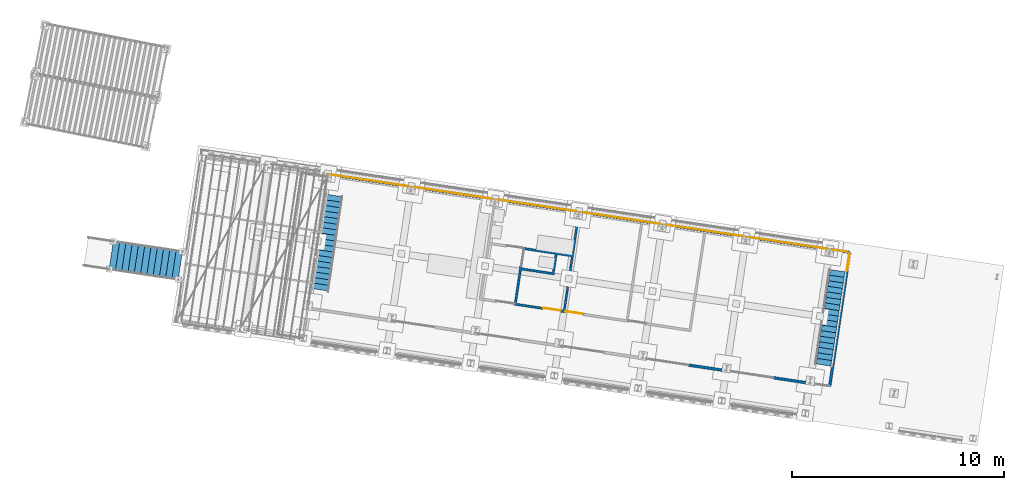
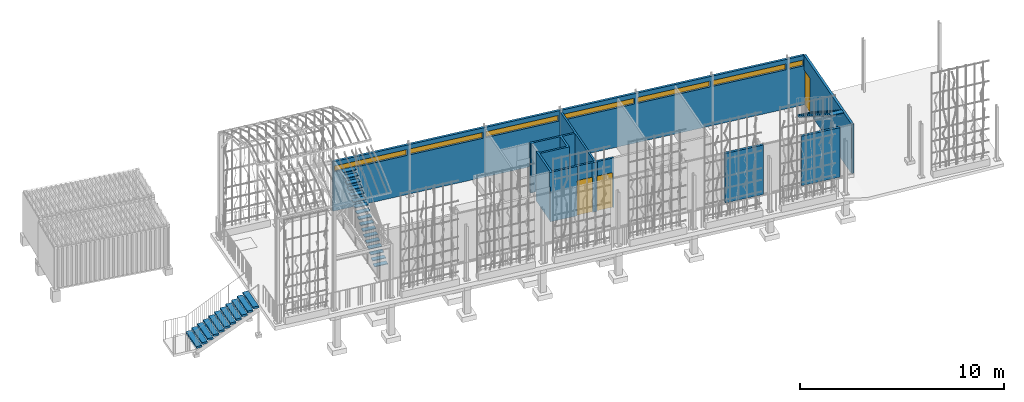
# One storey, part 135 of 142: 7 windows, 5 walls, 3 doors, 3 stair flights, 13 openings, 3 elements without a shape of their own.
"""IFC4 building model written with IfcOpenShell, lengths in metres."""

from ifc_helpers import new_model, si_unit, direction, frame, origin_with_axes, place, context, subcontext, project, spatial, polyline, outline, extrude, material, layer, layer_set, constituent, constituent_set, element, fill, aggregate, save


model = new_model("IFC4")

# Units and contexts
model_context = context("Model", 3, precision=1e-05, world=origin_with_axes(), true_north=direction((0.0, 1.0)))
body_context = subcontext(model_context, "Body", "Model", "MODEL_VIEW")
ifc_project = project(units=[si_unit("LENGTHUNIT", "METRE"), si_unit("AREAUNIT", "SQUARE_METRE"), si_unit("VOLUMEUNIT", "CUBIC_METRE")], contexts=[model_context])

# Site, building, storey
site_placement = place(None, origin_with_axes())
site = spatial("IfcSite", under=ifc_project, at=site_placement, Name="Lares · Rua das Mercês · artigo 4771")
building_placement = place(site_placement, frame((15.0, 9.7, 14.65), z_axis=(0.0, 0.0, 1.0), x_axis=(0.989015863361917, -0.147809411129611, 0.0)))
building = spatial("IfcBuilding", under=site, at=building_placement, Name="Casa Sobreposta")
storey_placement = place(building_placement, origin_with_axes())
storey = spatial("IfcBuildingStorey", under=building, at=storey_placement, Name="00 · Habitação e estacionamento", Elevation=14.65)

# Wall, openings, doors
ifc_material_1 = material(Name="OSB", Category="wood")
ifc_constituent_1 = constituent(ifc_material_1, Name="osb")
ifc_material_2 = material(Name="Lã mineral / Mineralwolle 2", Category="mineral wool")
ifc_constituent_2 = constituent(ifc_material_2, Name="wool")
ifc_constituent_set = constituent_set(constituents=[ifc_constituent_1, ifc_constituent_2], Name="OSB22 / lã mineral / OSB22")
wall_1_placement = place(storey_placement, origin_with_axes())
wall_1 = element("IfcWall", 1, at=wall_1_placement, inside=storey, material=ifc_constituent_set, Name="Divisória 2 · OSB 22 mm nas duas faces", context=body_context, shape_type="SweptSolid", body=[
    extrude(outline(polyline([(9.72999999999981, 3.383), (11.1799999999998, 3.383), (11.1799999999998, 4.24299999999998), (9.72999999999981, 4.24299999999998), (9.72999999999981, 4.19299999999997), (9.61999999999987, 4.19299999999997), (9.61999999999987, 4.24299999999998), (9.56999999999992, 4.24299999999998), (9.56999999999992, 4.35299999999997), (11.96, 4.35299999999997), (11.96, 6.27299999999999), (12.06, 6.27299999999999), (12.06, 1.70993390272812), (12.9746138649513, 1.7100856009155), (12.974632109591, 1.60008560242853), (12.1099999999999, 1.59994219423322), (12.1099999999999, 1.57999999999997), (11.8099999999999, 1.57999999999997), (11.8099999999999, 1.59995696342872), (11.05, 1.60006879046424), (11.05, 1.57999999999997), (9.56999999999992, 1.57999999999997), (9.56999999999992, 1.68999999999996), (9.61999999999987, 1.68999999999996), (9.61999999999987, 3.53299999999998), (9.72999999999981, 3.53299999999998), (9.72999999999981, 3.383)]), holes=[polyline([(9.64199999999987, 3.51099999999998), (9.64199999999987, 1.66799999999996), (9.59199999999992, 1.66799999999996), (9.59199999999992, 1.60199999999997), (11.028, 1.60199999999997), (11.028, 1.62207202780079), (11.8319999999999, 1.62195372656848), (11.8319999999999, 1.60199999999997), (12.0879999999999, 1.60199999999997), (12.0879999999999, 1.62193854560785), (12.9526284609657, 1.62208195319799), (12.9526175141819, 1.68808195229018), (12.038, 1.68793025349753), (12.038, 6.25099999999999), (11.982, 6.25099999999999), (11.982, 4.33099999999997), (9.59199999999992, 4.33099999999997), (9.59199999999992, 4.26499999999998), (9.64199999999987, 4.26499999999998), (9.64199999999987, 4.21499999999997), (9.70799999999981, 4.21499999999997), (9.70799999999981, 4.26499999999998), (11.2019999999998, 4.26499999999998), (11.2019999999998, 3.361), (9.70799999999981, 3.361), (9.70799999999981, 3.51099999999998), (9.64199999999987, 3.51099999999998)])]), origin_with_axes(), (0.0, 0.0, 1.0), 2.968),
    extrude(outline(polyline([(10.9666589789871, 1.66799999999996), (9.70799999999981, 1.66799999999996), (9.70799999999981, 3.29500000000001), (11.268, 3.29500000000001), (11.268, 4.26499999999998), (11.982, 4.26499999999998), (11.982, 1.66799999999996), (11.892736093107, 1.66799999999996), (11.8927390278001, 1.68794479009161), (10.9666619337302, 1.68808105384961), (10.9666589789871, 1.66799999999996)]), holes=[polyline([(11.96, 4.24299999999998), (11.29, 4.24299999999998), (11.29, 3.27300000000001), (9.72999999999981, 3.27300000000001), (9.72999999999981, 1.68999999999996), (10.9446622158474, 1.68999999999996), (10.9446651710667, 1.71008429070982), (11.9147422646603, 1.70994155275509), (11.9147393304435, 1.68999999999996), (11.96, 1.68999999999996), (11.96, 4.24299999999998)])]), origin_with_axes(), (0.0, 0.0, 1.0), 2.968),
    extrude(outline(polyline([(9.70799999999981, 3.51099999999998), (9.70799999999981, 3.361), (11.2019999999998, 3.361), (11.2019999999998, 4.26499999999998), (9.70799999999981, 4.26499999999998), (9.70799999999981, 4.21499999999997), (9.64199999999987, 4.21499999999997), (9.64199999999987, 4.26499999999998), (9.59199999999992, 4.26499999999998), (9.59199999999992, 4.33099999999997), (11.982, 4.33099999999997), (11.982, 6.25099999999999), (12.038, 6.25099999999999), (12.038, 1.68793025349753), (12.9526175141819, 1.68808195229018), (12.9526284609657, 1.62208195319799), (12.0879999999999, 1.62193854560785), (12.0879999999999, 1.60199999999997), (11.8319999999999, 1.60199999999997), (11.8319999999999, 1.62195372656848), (11.028, 1.62207202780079), (11.028, 1.60199999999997), (9.59199999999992, 1.60199999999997), (9.59199999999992, 1.66799999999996), (9.64199999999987, 1.66799999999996), (9.64199999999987, 3.51099999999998), (9.70799999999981, 3.51099999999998)]), holes=[polyline([(10.9666619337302, 1.68808105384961), (11.8927390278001, 1.68794479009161), (11.892736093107, 1.66799999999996), (11.982, 1.66799999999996), (11.982, 4.26499999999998), (11.268, 4.26499999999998), (11.268, 3.29500000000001), (9.70799999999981, 3.29500000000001), (9.70799999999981, 1.66799999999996), (10.9666589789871, 1.66799999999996), (10.9666619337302, 1.68808105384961)])]), origin_with_axes(), (0.0, 0.0, 1.0), 2.968),
])
opening_1_placement = place(wall_1_placement, origin_with_axes())
opening_1 = element("IfcOpeningElement", 2, at=opening_1_placement, cuts=wall_1, PredefinedType="OPENING", context=body_context, shape_type="SweptSolid", body=[
    extrude(outline(polyline([(12.9045964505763, 1.81507398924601), (12.9046495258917, 1.49507399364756), (12.0745568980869, 1.49493631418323), (12.0745038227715, 1.81493630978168), (12.9045964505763, 1.81507398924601)])), origin_with_axes(), (0.0, 0.0, 1.0), 2.1),
])
opening_2_placement = place(wall_1_placement, origin_with_axes())
element("IfcOpeningElement", 3, at=opening_2_placement, cuts=wall_1, PredefinedType="OPENING", context=body_context, shape_type="SweptSolid", body=[
    extrude(outline(polyline([(8.87451187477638, 4.15754451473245), (8.87455853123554, 4.47754451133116), (9.60464431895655, 4.4774380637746), (9.60459766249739, 4.15743806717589), (8.87451187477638, 4.15754451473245)])), origin_with_axes(), (0.0, 0.0, 1.0), 2.1),
])
opening_3_placement = place(wall_1_placement, origin_with_axes())
element("IfcOpeningElement", 4, at=opening_3_placement, cuts=wall_1, PredefinedType="OPENING", context=body_context, shape_type="SweptSolid", body=[
    extrude(outline(polyline([(8.77453708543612, 1.49507399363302), (8.77458998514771, 1.81507398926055), (9.60468215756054, 1.81493676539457), (9.60462925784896, 1.49493676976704), (8.77453708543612, 1.49507399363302)])), origin_with_axes(), (0.0, 0.0, 1.0), 2.1),
])
opening_4_placement = place(wall_1_placement, origin_with_axes())
opening_4 = element("IfcOpeningElement", 5, at=opening_4_placement, cuts=wall_1, Name="Vão porta interior 5.1", PredefinedType="OPENING", context=body_context, shape_type="SweptSolid", body=[
    extrude(outline(polyline([(11.0146335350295, 1.49507399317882), (11.0146806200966, 1.81507398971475), (11.8447577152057, 1.81495185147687), (11.8447106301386, 1.49495185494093), (11.0146335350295, 1.49507399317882)])), origin_with_axes(), (0.0, 0.0, 1.0), 2.1),
])
opening_5_placement = place(wall_1_placement, origin_with_axes())
element("IfcOpeningElement", 6, at=opening_5_placement, cuts=wall_1, PredefinedType="OPENING", context=body_context, shape_type="SweptSolid", body=[
    extrude(outline(polyline([(9.85466693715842, 3.49756304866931), (9.53466694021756, 3.49751880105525), (9.5345659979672, 4.22753601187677), (9.85456599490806, 4.22758025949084), (9.85466693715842, 3.49756304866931)])), origin_with_axes(), (0.0, 0.0, 1.0), 2.1),
])
door_1_placement = place(storey_placement, origin_with_axes())
door_1 = element("IfcDoor", 7, at=door_1_placement, inside=storey, material=ifc_material_1, Name="Porta interior 2", OperationType="SINGLE_SWING_LEFT", OverallHeight=2.1, OverallWidth=0.830092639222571, PredefinedType="DOOR", context=body_context, shape_type="SweptSolid", body=[
    extrude(outline(polyline([(12.9046200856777, 1.67257399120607), (12.9046258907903, 1.63757399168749), (12.0745332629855, 1.63743631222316), (12.0745274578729, 1.67243631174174), (12.9046200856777, 1.67257399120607)])), origin_with_axes(), (0.0, 0.0, 1.0), 2.1),
])
fill(opening_1, door_1)
door_2_placement = place(storey_placement, origin_with_axes())
door_2 = element("IfcDoor", 8, at=door_2_placement, inside=storey, material=ifc_material_1, Name="Porta interior 5", OperationType="SINGLE_SWING_LEFT", OverallHeight=2.1, OverallWidth=0.830077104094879, PredefinedType="DOOR", context=body_context, shape_type="SweptSolid", body=[
    extrude(outline(polyline([(11.0146545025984, 1.63757399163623), (11.0146596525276, 1.67257399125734), (11.8447367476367, 1.67245185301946), (11.8447315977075, 1.63745185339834), (11.0146545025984, 1.63757399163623)])), origin_with_axes(), (0.0, 0.0, 1.0), 2.1),
])
fill(opening_4, door_2)

# Wall, openings, windows
ifc_material_3 = material(Name="Aço pintado / Stahl lackiert", Category="steel")
ifc_layer_1 = layer(ifc_material_3, 0.005, Name="steel")
ifc_layer_2 = layer(ifc_material_2, 0.12, Name="wool")
ifc_layer_3 = layer(ifc_material_3, 0.00516, Name="steel")
ifc_layer_set_1 = layer_set([ifc_layer_1, ifc_layer_2, ifc_layer_3], Name="Casa DFL sandwich · 130.16 mm")
wall_2_placement = place(storey_placement, origin_with_axes())
wall_2 = element("IfcWall", 9, at=wall_2_placement, inside=storey, material=ifc_layer_set_1, Name="Fachada norte · sandwich Casa DFL", context=body_context, shape_type="SweptSolid", body=[
    extrude(outline(polyline([(24.92, 6.46508), (24.92, 6.33492), (0.0, 6.33492), (0.0, 6.46508), (24.92, 6.46508)])), origin_with_axes(), (0.0, 0.0, 1.0), 2.968),
])
opening_6_placement = place(wall_2_placement, frame((0.0, 0.0, 2.35), z_axis=(0.0, 0.0, 1.0), x_axis=(1.0, 0.0, 0.0)))
opening_6 = element("IfcOpeningElement", 10, at=opening_6_placement, cuts=wall_2, Name="Vão rasgo norte 1", PredefinedType="OPENING", context=body_context, shape_type="SweptSolid", body=[
    extrude(outline(polyline([(3.92, 6.6), (3.92, 6.2), (0.08, 6.2), (0.08, 6.6), (3.92, 6.6)])), origin_with_axes(), (0.0, 0.0, 1.0), 0.35),
])
opening_7_placement = place(wall_2_placement, frame((0.0, 0.0, 2.35), z_axis=(0.0, 0.0, 1.0), x_axis=(1.0, 0.0, 0.0)))
opening_7 = element("IfcOpeningElement", 11, at=opening_7_placement, cuts=wall_2, Name="Vão rasgo norte 2", PredefinedType="OPENING", context=body_context, shape_type="SweptSolid", body=[
    extrude(outline(polyline([(7.92, 6.6), (7.92, 6.2), (4.08, 6.2), (4.08, 6.6), (7.92, 6.6)])), origin_with_axes(), (0.0, 0.0, 1.0), 0.35),
])
opening_8_placement = place(wall_2_placement, frame((0.0, 0.0, 2.35), z_axis=(0.0, 0.0, 1.0), x_axis=(1.0, 0.0, 0.0)))
opening_8 = element("IfcOpeningElement", 12, at=opening_8_placement, cuts=wall_2, Name="Vão rasgo norte 3", PredefinedType="OPENING", context=body_context, shape_type="SweptSolid", body=[
    extrude(outline(polyline([(11.92, 6.6), (11.92, 6.2), (8.08, 6.2), (8.08, 6.6), (11.92, 6.6)])), origin_with_axes(), (0.0, 0.0, 1.0), 0.35),
])
opening_9_placement = place(wall_2_placement, frame((0.0, 0.0, 2.35), z_axis=(0.0, 0.0, 1.0), x_axis=(1.0, 0.0, 0.0)))
opening_9 = element("IfcOpeningElement", 13, at=opening_9_placement, cuts=wall_2, Name="Vão rasgo norte 4", PredefinedType="OPENING", context=body_context, shape_type="SweptSolid", body=[
    extrude(outline(polyline([(15.92, 6.6), (15.92, 6.2), (12.08, 6.2), (12.08, 6.6), (15.92, 6.6)])), origin_with_axes(), (0.0, 0.0, 1.0), 0.35),
])
opening_10_placement = place(wall_2_placement, frame((0.0, 0.0, 2.35), z_axis=(0.0, 0.0, 1.0), x_axis=(1.0, 0.0, 0.0)))
opening_10 = element("IfcOpeningElement", 14, at=opening_10_placement, cuts=wall_2, Name="Vão rasgo norte 5", PredefinedType="OPENING", context=body_context, shape_type="SweptSolid", body=[
    extrude(outline(polyline([(19.92, 6.6), (19.92, 6.2), (16.08, 6.2), (16.08, 6.6), (19.92, 6.6)])), origin_with_axes(), (0.0, 0.0, 1.0), 0.35),
])
opening_11_placement = place(wall_2_placement, frame((0.0, 0.0, 2.35), z_axis=(0.0, 0.0, 1.0), x_axis=(1.0, 0.0, 0.0)))
opening_11 = element("IfcOpeningElement", 15, at=opening_11_placement, cuts=wall_2, Name="Vão rasgo norte 6", PredefinedType="OPENING", context=body_context, shape_type="SweptSolid", body=[
    extrude(outline(polyline([(23.92, 6.6), (23.92, 6.2), (20.08, 6.2), (20.08, 6.6), (23.92, 6.6)])), origin_with_axes(), (0.0, 0.0, 1.0), 0.35),
])
opening_12_placement = place(wall_2_placement, frame((0.0, 0.0, 2.35), z_axis=(0.0, 0.0, 1.0), x_axis=(1.0, 0.0, 0.0)))
opening_12 = element("IfcOpeningElement", 16, at=opening_12_placement, cuts=wall_2, Name="Vão rasgo norte 7", PredefinedType="OPENING", context=body_context, shape_type="SweptSolid", body=[
    extrude(outline(polyline([(24.84, 6.6), (24.84, 6.2), (24.08, 6.2), (24.08, 6.6), (24.84, 6.6)])), origin_with_axes(), (0.0, 0.0, 1.0), 0.35),
])
ifc_material_4 = material(Name="Vidro / Normalglas", Category="glass")
window_1_placement = place(storey_placement, frame((0.0, 0.0, 2.375), z_axis=(0.0, 0.0, 1.0), x_axis=(1.0, 0.0, 0.0)))
window_1 = element("IfcWindow", 17, at=window_1_placement, inside=storey, material=ifc_material_4, Name="Rasgo norte 1", OverallHeight=0.3, OverallWidth=3.79, PartitioningType="SINGLE_PANEL", PredefinedType="WINDOW", context=body_context, shape_type="SweptSolid", body=[
    extrude(outline(polyline([(3.895, 6.404), (3.895, 6.396), (0.105, 6.396), (0.105, 6.404), (3.895, 6.404)])), origin_with_axes(), (0.0, 0.0, 1.0), 0.3),
])
fill(opening_6, window_1)
window_2_placement = place(storey_placement, frame((0.0, 0.0, 2.375), z_axis=(0.0, 0.0, 1.0), x_axis=(1.0, 0.0, 0.0)))
window_2 = element("IfcWindow", 18, at=window_2_placement, inside=storey, material=ifc_material_4, Name="Rasgo norte 2", OverallHeight=0.3, OverallWidth=3.79, PartitioningType="SINGLE_PANEL", PredefinedType="WINDOW", context=body_context, shape_type="SweptSolid", body=[
    extrude(outline(polyline([(7.895, 6.404), (7.895, 6.396), (4.105, 6.396), (4.105, 6.404), (7.895, 6.404)])), origin_with_axes(), (0.0, 0.0, 1.0), 0.3),
])
fill(opening_7, window_2)
window_3_placement = place(storey_placement, frame((0.0, 0.0, 2.375), z_axis=(0.0, 0.0, 1.0), x_axis=(1.0, 0.0, 0.0)))
window_3 = element("IfcWindow", 19, at=window_3_placement, inside=storey, material=ifc_material_4, Name="Rasgo norte 3", OverallHeight=0.3, OverallWidth=3.79, PartitioningType="SINGLE_PANEL", PredefinedType="WINDOW", context=body_context, shape_type="SweptSolid", body=[
    extrude(outline(polyline([(11.895, 6.404), (11.895, 6.396), (8.105, 6.396), (8.105, 6.404), (11.895, 6.404)])), origin_with_axes(), (0.0, 0.0, 1.0), 0.3),
])
fill(opening_8, window_3)
window_4_placement = place(storey_placement, frame((0.0, 0.0, 2.375), z_axis=(0.0, 0.0, 1.0), x_axis=(1.0, 0.0, 0.0)))
window_4 = element("IfcWindow", 20, at=window_4_placement, inside=storey, material=ifc_material_4, Name="Rasgo norte 4", OverallHeight=0.3, OverallWidth=3.79, PartitioningType="SINGLE_PANEL", PredefinedType="WINDOW", context=body_context, shape_type="SweptSolid", body=[
    extrude(outline(polyline([(15.895, 6.404), (15.895, 6.396), (12.105, 6.396), (12.105, 6.404), (15.895, 6.404)])), origin_with_axes(), (0.0, 0.0, 1.0), 0.3),
])
fill(opening_9, window_4)
window_5_placement = place(storey_placement, frame((0.0, 0.0, 2.375), z_axis=(0.0, 0.0, 1.0), x_axis=(1.0, 0.0, 0.0)))
window_5 = element("IfcWindow", 21, at=window_5_placement, inside=storey, material=ifc_material_4, Name="Rasgo norte 5", OverallHeight=0.3, OverallWidth=3.79, PartitioningType="SINGLE_PANEL", PredefinedType="WINDOW", context=body_context, shape_type="SweptSolid", body=[
    extrude(outline(polyline([(19.895, 6.404), (19.895, 6.396), (16.105, 6.396), (16.105, 6.404), (19.895, 6.404)])), origin_with_axes(), (0.0, 0.0, 1.0), 0.3),
])
fill(opening_10, window_5)
window_6_placement = place(storey_placement, frame((0.0, 0.0, 2.375), z_axis=(0.0, 0.0, 1.0), x_axis=(1.0, 0.0, 0.0)))
window_6 = element("IfcWindow", 22, at=window_6_placement, inside=storey, material=ifc_material_4, Name="Rasgo norte 6", OverallHeight=0.3, OverallWidth=3.79, PartitioningType="SINGLE_PANEL", PredefinedType="WINDOW", context=body_context, shape_type="SweptSolid", body=[
    extrude(outline(polyline([(23.895, 6.404), (23.895, 6.396), (20.105, 6.396), (20.105, 6.404), (23.895, 6.404)])), origin_with_axes(), (0.0, 0.0, 1.0), 0.3),
])
fill(opening_11, window_6)
window_7_placement = place(storey_placement, frame((0.0, 0.0, 2.375), z_axis=(0.0, 0.0, 1.0), x_axis=(1.0, 0.0, 0.0)))
window_7 = element("IfcWindow", 23, at=window_7_placement, inside=storey, material=ifc_material_4, Name="Rasgo norte 7", OverallHeight=0.3, OverallWidth=0.710000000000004, PartitioningType="SINGLE_PANEL", PredefinedType="WINDOW", context=body_context, shape_type="SweptSolid", body=[
    extrude(outline(polyline([(24.815, 6.404), (24.815, 6.396), (24.105, 6.396), (24.105, 6.404), (24.815, 6.404)])), origin_with_axes(), (0.0, 0.0, 1.0), 0.3),
])
fill(opening_12, window_7)

# Wall, opening, door
ifc_layer_4 = layer(ifc_material_3, 0.005, Name="steel")
ifc_layer_5 = layer(ifc_material_2, 0.12, Name="wool")
ifc_layer_6 = layer(ifc_material_3, 0.00516, Name="steel")
ifc_layer_set_2 = layer_set([ifc_layer_4, ifc_layer_5, ifc_layer_6], Name="Casa DFL sandwich · 130.16 mm")
wall_3_placement = place(storey_placement, origin_with_axes())
wall_3 = element("IfcWall", 24, at=wall_3_placement, inside=storey, material=ifc_layer_set_2, Name="Separação do estacionamento", context=body_context, shape_type="SweptSolid", body=[
    extrude(outline(polyline([(24.87992, 6.4), (25.01008, 6.4), (25.01008, 0.0), (24.87992, 0.0), (24.87992, 6.4)])), origin_with_axes(), (0.0, 0.0, 1.0), 2.968),
])
opening_13_placement = place(wall_3_placement, origin_with_axes())
opening_13 = element("IfcOpeningElement", 25, at=opening_13_placement, cuts=wall_3, Name="Vão de acesso do estacionamento", PredefinedType="OPENING", context=body_context, shape_type="SweptSolid", body=[
    extrude(outline(polyline([(24.745, 6.34), (25.145, 6.34), (25.145, 5.51), (24.745, 5.51), (24.745, 6.34)])), origin_with_axes(), (0.0, 0.0, 1.0), 2.1),
])
door_3_placement = place(storey_placement, origin_with_axes())
door_3 = element("IfcDoor", 26, at=door_3_placement, inside=storey, material=ifc_material_3, Name="Porta do estacionamento", OperationType="SINGLE_SWING_LEFT", OverallHeight=2.1, OverallWidth=0.83, PredefinedType="DOOR", context=body_context, shape_type="SweptSolid", body=[
    extrude(outline(polyline([(24.925, 6.34), (24.965, 6.34), (24.965, 5.51), (24.925, 5.51), (24.925, 6.34)])), origin_with_axes(), (0.0, 0.0, 1.0), 2.1),
])
fill(opening_13, door_3)

# Walls
ifc_layer_7 = layer(ifc_material_3, 0.005, Name="steel")
ifc_layer_8 = layer(ifc_material_2, 0.12, Name="wool")
ifc_layer_9 = layer(ifc_material_3, 0.00516, Name="steel")
ifc_layer_set_3 = layer_set([ifc_layer_7, ifc_layer_8, ifc_layer_9], Name="Casa DFL sandwich · 130.16 mm")
wall_4_placement = place(storey_placement, origin_with_axes())
element("IfcWall", 27, at=wall_4_placement, inside=storey, material=ifc_layer_set_3, Name="Painel opaco sul 9", context=body_context, shape_type="SweptSolid", body=[
    extrude(outline(polyline([(20.2133333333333, 0.06508), (20.2133333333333, -0.06508), (18.192, -0.06508), (18.192, 0.06508), (20.2133333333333, 0.06508)])), origin_with_axes(), (0.0, 0.0, 1.0), 2.968),
])
ifc_layer_10 = layer(ifc_material_3, 0.005, Name="steel")
ifc_layer_11 = layer(ifc_material_2, 0.12, Name="wool")
ifc_layer_12 = layer(ifc_material_3, 0.00516, Name="steel")
ifc_layer_set_4 = layer_set([ifc_layer_10, ifc_layer_11, ifc_layer_12], Name="Casa DFL sandwich · 130.16 mm")
wall_5_placement = place(storey_placement, origin_with_axes())
element("IfcWall", 28, at=wall_5_placement, inside=storey, material=ifc_layer_set_4, Name="Painel opaco sul 11", context=body_context, shape_type="SweptSolid", body=[
    extrude(outline(polyline([(24.256, 0.06508), (24.256, -0.06508), (22.2346666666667, -0.06508), (22.2346666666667, 0.06508), (24.256, 0.06508)])), origin_with_axes(), (0.0, 0.0, 1.0), 2.968),
])

# Stair, stair flight
stair_1_placement = place(storey_placement, origin_with_axes())
stair_1 = element("IfcStair", 29, at=stair_1_placement, inside=storey, Name="Escada sala", PredefinedType="STRAIGHT_RUN_STAIR")
stair_flight_1_placement = place(stair_1_placement, origin_with_axes())
stair_flight_1 = element("IfcStairFlight", 30, at=stair_flight_1_placement, material=ifc_material_1, Name="Lanço sala", NumberOfRisers=18, NumberOfTreads=17, PredefinedType="STRAIGHT", RiserHeight=0.18, TreadLength=0.265, context=body_context, shape_type="SweptSolid", body=[
    extrude(outline(polyline([(0.79, 0.9475), (0.79, 1.2125), (0.09, 1.2125), (0.09, 0.9475), (0.79, 0.9475)])), frame((0.0, 0.0, 0.14), z_axis=(0.0, 0.0, 1.0), x_axis=(1.0, 0.0, 0.0)), (0.0, 0.0, 1.0), 0.04),
    extrude(outline(polyline([(0.79, 1.2125), (0.79, 1.4775), (0.09, 1.4775), (0.09, 1.2125), (0.79, 1.2125)])), frame((0.0, 0.0, 0.32), z_axis=(0.0, 0.0, 1.0), x_axis=(1.0, 0.0, 0.0)), (0.0, 0.0, 1.0), 0.04),
    extrude(outline(polyline([(0.79, 1.4775), (0.79, 1.7425), (0.09, 1.7425), (0.09, 1.4775), (0.79, 1.4775)])), frame((0.0, 0.0, 0.5), z_axis=(0.0, 0.0, 1.0), x_axis=(1.0, 0.0, 0.0)), (0.0, 0.0, 1.0), 0.04),
    extrude(outline(polyline([(0.79, 1.7425), (0.79, 2.0075), (0.09, 2.0075), (0.09, 1.7425), (0.79, 1.7425)])), frame((0.0, 0.0, 0.68), z_axis=(0.0, 0.0, 1.0), x_axis=(1.0, 0.0, 0.0)), (0.0, 0.0, 1.0), 0.04),
    extrude(outline(polyline([(0.79, 2.0075), (0.79, 2.2725), (0.09, 2.2725), (0.09, 2.0075), (0.79, 2.0075)])), frame((0.0, 0.0, 0.86), z_axis=(0.0, 0.0, 1.0), x_axis=(1.0, 0.0, 0.0)), (0.0, 0.0, 1.0), 0.04),
    extrude(outline(polyline([(0.79, 2.2725), (0.79, 2.5375), (0.09, 2.5375), (0.09, 2.2725), (0.79, 2.2725)])), frame((0.0, 0.0, 1.04), z_axis=(0.0, 0.0, 1.0), x_axis=(1.0, 0.0, 0.0)), (0.0, 0.0, 1.0), 0.04),
    extrude(outline(polyline([(0.79, 2.5375), (0.79, 2.8025), (0.09, 2.8025), (0.09, 2.5375), (0.79, 2.5375)])), frame((0.0, 0.0, 1.22), z_axis=(0.0, 0.0, 1.0), x_axis=(1.0, 0.0, 0.0)), (0.0, 0.0, 1.0), 0.04),
    extrude(outline(polyline([(0.79, 2.8025), (0.79, 3.0675), (0.09, 3.0675), (0.09, 2.8025), (0.79, 2.8025)])), frame((0.0, 0.0, 1.4), z_axis=(0.0, 0.0, 1.0), x_axis=(1.0, 0.0, 0.0)), (0.0, 0.0, 1.0), 0.04),
    extrude(outline(polyline([(0.79, 3.0675), (0.79, 3.3325), (0.09, 3.3325), (0.09, 3.0675), (0.79, 3.0675)])), frame((0.0, 0.0, 1.58), z_axis=(0.0, 0.0, 1.0), x_axis=(1.0, 0.0, 0.0)), (0.0, 0.0, 1.0), 0.04),
    extrude(outline(polyline([(0.79, 3.3325), (0.79, 3.5975), (0.09, 3.5975), (0.09, 3.3325), (0.79, 3.3325)])), frame((0.0, 0.0, 1.76), z_axis=(0.0, 0.0, 1.0), x_axis=(1.0, 0.0, 0.0)), (0.0, 0.0, 1.0), 0.04),
    extrude(outline(polyline([(0.79, 3.5975), (0.79, 3.8625), (0.09, 3.8625), (0.09, 3.5975), (0.79, 3.5975)])), frame((0.0, 0.0, 1.94), z_axis=(0.0, 0.0, 1.0), x_axis=(1.0, 0.0, 0.0)), (0.0, 0.0, 1.0), 0.04),
    extrude(outline(polyline([(0.79, 3.8625), (0.79, 4.1275), (0.09, 4.1275), (0.09, 3.8625), (0.79, 3.8625)])), frame((0.0, 0.0, 2.12), z_axis=(0.0, 0.0, 1.0), x_axis=(1.0, 0.0, 0.0)), (0.0, 0.0, 1.0), 0.04),
    extrude(outline(polyline([(0.79, 4.1275), (0.79, 4.3925), (0.09, 4.3925), (0.09, 4.1275), (0.79, 4.1275)])), frame((0.0, 0.0, 2.3), z_axis=(0.0, 0.0, 1.0), x_axis=(1.0, 0.0, 0.0)), (0.0, 0.0, 1.0), 0.04),
    extrude(outline(polyline([(0.79, 4.3925), (0.79, 4.6575), (0.09, 4.6575), (0.09, 4.3925), (0.79, 4.3925)])), frame((0.0, 0.0, 2.48), z_axis=(0.0, 0.0, 1.0), x_axis=(1.0, 0.0, 0.0)), (0.0, 0.0, 1.0), 0.04),
    extrude(outline(polyline([(0.79, 4.6575), (0.79, 4.9225), (0.09, 4.9225), (0.09, 4.6575), (0.79, 4.6575)])), frame((0.0, 0.0, 2.66), z_axis=(0.0, 0.0, 1.0), x_axis=(1.0, 0.0, 0.0)), (0.0, 0.0, 1.0), 0.04),
    extrude(outline(polyline([(0.79, 4.9225), (0.79, 5.1875), (0.09, 5.1875), (0.09, 4.9225), (0.79, 4.9225)])), frame((0.0, 0.0, 2.84), z_axis=(0.0, 0.0, 1.0), x_axis=(1.0, 0.0, 0.0)), (0.0, 0.0, 1.0), 0.04),
    extrude(outline(polyline([(0.79, 5.1875), (0.79, 5.4525), (0.09, 5.4525), (0.09, 5.1875), (0.79, 5.1875)])), frame((0.0, 0.0, 3.02), z_axis=(0.0, 0.0, 1.0), x_axis=(1.0, 0.0, 0.0)), (0.0, 0.0, 1.0), 0.04),
])
aggregate(stair_1, [stair_flight_1])

stair_2_placement = place(storey_placement, origin_with_axes())
stair_2 = element("IfcStair", 31, at=stair_2_placement, inside=storey, Name="Escada garagem", PredefinedType="STRAIGHT_RUN_STAIR")
stair_flight_2_placement = place(stair_2_placement, origin_with_axes())
stair_flight_2 = element("IfcStairFlight", 32, at=stair_flight_2_placement, material=ifc_material_1, Name="Lanço garagem", NumberOfRisers=18, NumberOfTreads=17, PredefinedType="STRAIGHT", RiserHeight=0.18, TreadLength=0.265, context=body_context, shape_type="SweptSolid", body=[
    extrude(outline(polyline([(24.86, 5.1875), (24.86, 5.4525), (24.16, 5.4525), (24.16, 5.1875), (24.86, 5.1875)])), frame((0.0, 0.0, 0.14), z_axis=(0.0, 0.0, 1.0), x_axis=(1.0, 0.0, 0.0)), (0.0, 0.0, 1.0), 0.04),
    extrude(outline(polyline([(24.86, 4.9225), (24.86, 5.1875), (24.16, 5.1875), (24.16, 4.9225), (24.86, 4.9225)])), frame((0.0, 0.0, 0.32), z_axis=(0.0, 0.0, 1.0), x_axis=(1.0, 0.0, 0.0)), (0.0, 0.0, 1.0), 0.04),
    extrude(outline(polyline([(24.86, 4.6575), (24.86, 4.9225), (24.16, 4.9225), (24.16, 4.6575), (24.86, 4.6575)])), frame((0.0, 0.0, 0.5), z_axis=(0.0, 0.0, 1.0), x_axis=(1.0, 0.0, 0.0)), (0.0, 0.0, 1.0), 0.04),
    extrude(outline(polyline([(24.86, 4.3925), (24.86, 4.6575), (24.16, 4.6575), (24.16, 4.3925), (24.86, 4.3925)])), frame((0.0, 0.0, 0.68), z_axis=(0.0, 0.0, 1.0), x_axis=(1.0, 0.0, 0.0)), (0.0, 0.0, 1.0), 0.04),
    extrude(outline(polyline([(24.86, 4.1275), (24.86, 4.3925), (24.16, 4.3925), (24.16, 4.1275), (24.86, 4.1275)])), frame((0.0, 0.0, 0.86), z_axis=(0.0, 0.0, 1.0), x_axis=(1.0, 0.0, 0.0)), (0.0, 0.0, 1.0), 0.04),
    extrude(outline(polyline([(24.86, 3.8625), (24.86, 4.1275), (24.16, 4.1275), (24.16, 3.8625), (24.86, 3.8625)])), frame((0.0, 0.0, 1.04), z_axis=(0.0, 0.0, 1.0), x_axis=(1.0, 0.0, 0.0)), (0.0, 0.0, 1.0), 0.04),
    extrude(outline(polyline([(24.86, 3.5975), (24.86, 3.8625), (24.16, 3.8625), (24.16, 3.5975), (24.86, 3.5975)])), frame((0.0, 0.0, 1.22), z_axis=(0.0, 0.0, 1.0), x_axis=(1.0, 0.0, 0.0)), (0.0, 0.0, 1.0), 0.04),
    extrude(outline(polyline([(24.86, 3.3325), (24.86, 3.5975), (24.16, 3.5975), (24.16, 3.3325), (24.86, 3.3325)])), frame((0.0, 0.0, 1.4), z_axis=(0.0, 0.0, 1.0), x_axis=(1.0, 0.0, 0.0)), (0.0, 0.0, 1.0), 0.04),
    extrude(outline(polyline([(24.86, 3.0675), (24.86, 3.3325), (24.16, 3.3325), (24.16, 3.0675), (24.86, 3.0675)])), frame((0.0, 0.0, 1.58), z_axis=(0.0, 0.0, 1.0), x_axis=(1.0, 0.0, 0.0)), (0.0, 0.0, 1.0), 0.04),
    extrude(outline(polyline([(24.86, 2.8025), (24.86, 3.0675), (24.16, 3.0675), (24.16, 2.8025), (24.86, 2.8025)])), frame((0.0, 0.0, 1.76), z_axis=(0.0, 0.0, 1.0), x_axis=(1.0, 0.0, 0.0)), (0.0, 0.0, 1.0), 0.04),
    extrude(outline(polyline([(24.86, 2.5375), (24.86, 2.8025), (24.16, 2.8025), (24.16, 2.5375), (24.86, 2.5375)])), frame((0.0, 0.0, 1.94), z_axis=(0.0, 0.0, 1.0), x_axis=(1.0, 0.0, 0.0)), (0.0, 0.0, 1.0), 0.04),
    extrude(outline(polyline([(24.86, 2.2725), (24.86, 2.5375), (24.16, 2.5375), (24.16, 2.2725), (24.86, 2.2725)])), frame((0.0, 0.0, 2.12), z_axis=(0.0, 0.0, 1.0), x_axis=(1.0, 0.0, 0.0)), (0.0, 0.0, 1.0), 0.04),
    extrude(outline(polyline([(24.86, 2.0075), (24.86, 2.2725), (24.16, 2.2725), (24.16, 2.0075), (24.86, 2.0075)])), frame((0.0, 0.0, 2.3), z_axis=(0.0, 0.0, 1.0), x_axis=(1.0, 0.0, 0.0)), (0.0, 0.0, 1.0), 0.04),
    extrude(outline(polyline([(24.86, 1.7425), (24.86, 2.0075), (24.16, 2.0075), (24.16, 1.7425), (24.86, 1.7425)])), frame((0.0, 0.0, 2.48), z_axis=(0.0, 0.0, 1.0), x_axis=(1.0, 0.0, 0.0)), (0.0, 0.0, 1.0), 0.04),
    extrude(outline(polyline([(24.86, 1.4775), (24.86, 1.7425), (24.16, 1.7425), (24.16, 1.4775), (24.86, 1.4775)])), frame((0.0, 0.0, 2.66), z_axis=(0.0, 0.0, 1.0), x_axis=(1.0, 0.0, 0.0)), (0.0, 0.0, 1.0), 0.04),
    extrude(outline(polyline([(24.86, 1.2125), (24.86, 1.4775), (24.16, 1.4775), (24.16, 1.2125), (24.86, 1.2125)])), frame((0.0, 0.0, 2.84), z_axis=(0.0, 0.0, 1.0), x_axis=(1.0, 0.0, 0.0)), (0.0, 0.0, 1.0), 0.04),
    extrude(outline(polyline([(24.86, 0.947499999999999), (24.86, 1.2125), (24.16, 1.2125), (24.16, 0.947499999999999), (24.86, 0.947499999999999)])), frame((0.0, 0.0, 3.02), z_axis=(0.0, 0.0, 1.0), x_axis=(1.0, 0.0, 0.0)), (0.0, 0.0, 1.0), 0.04),
])
aggregate(stair_2, [stair_flight_2])

stair_3_placement = place(storey_placement, origin_with_axes())
stair_3 = element("IfcStair", 33, at=stair_3_placement, inside=storey, Name="Jardim · escada pela fachada poente", PredefinedType="STRAIGHT_RUN_STAIR")
ifc_material_5 = material(Name="Betão armado / Stahlbeton", Category="concrete")
stair_flight_3_placement = place(stair_3_placement, origin_with_axes())
stair_flight_3 = element("IfcStairFlight", 34, at=stair_flight_3_placement, material=ifc_material_5, Name="Jardim · lanço poente", NumberOfRisers=12, NumberOfTreads=11, PredefinedType="STRAIGHT", RiserHeight=0.159166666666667, TreadLength=0.3, context=body_context, shape_type="SweptSolid", body=[
    extrude(outline(polyline([(-6.25, 0.4), (-6.25, 1.8), (-6.55, 1.8), (-6.55, 0.4), (-6.25, 0.4)])), frame((0.0, 0.0, -0.319166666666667), z_axis=(0.0, 0.0, 1.0), x_axis=(1.0, 0.0, 0.0)), (0.0, 0.0, 1.0), 0.12),
    extrude(outline(polyline([(-6.55, 0.4), (-6.55, 1.8), (-6.85, 1.8), (-6.85, 0.4), (-6.55, 0.4)])), frame((0.0, 0.0, -0.478333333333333), z_axis=(0.0, 0.0, 1.0), x_axis=(1.0, 0.0, 0.0)), (0.0, 0.0, 1.0), 0.12),
    extrude(outline(polyline([(-6.85, 0.4), (-6.85, 1.8), (-7.15, 1.8), (-7.15, 0.4), (-6.85, 0.4)])), frame((0.0, 0.0, -0.6375), z_axis=(0.0, 0.0, 1.0), x_axis=(1.0, 0.0, 0.0)), (0.0, 0.0, 1.0), 0.12),
    extrude(outline(polyline([(-7.15, 0.4), (-7.15, 1.8), (-7.45, 1.8), (-7.45, 0.4), (-7.15, 0.4)])), frame((0.0, 0.0, -0.796666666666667), z_axis=(0.0, 0.0, 1.0), x_axis=(1.0, 0.0, 0.0)), (0.0, 0.0, 1.0), 0.12),
    extrude(outline(polyline([(-7.45, 0.4), (-7.45, 1.8), (-7.75, 1.8), (-7.75, 0.4), (-7.45, 0.4)])), frame((0.0, 0.0, -0.955833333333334), z_axis=(0.0, 0.0, 1.0), x_axis=(1.0, 0.0, 0.0)), (0.0, 0.0, 1.0), 0.12),
    extrude(outline(polyline([(-7.75, 0.4), (-7.75, 1.8), (-8.05, 1.8), (-8.05, 0.4), (-7.75, 0.4)])), frame((0.0, 0.0, -1.115), z_axis=(0.0, 0.0, 1.0), x_axis=(1.0, 0.0, 0.0)), (0.0, 0.0, 1.0), 0.12),
    extrude(outline(polyline([(-8.05, 0.4), (-8.05, 1.8), (-8.35, 1.8), (-8.35, 0.4), (-8.05, 0.4)])), frame((0.0, 0.0, -1.27416666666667), z_axis=(0.0, 0.0, 1.0), x_axis=(1.0, 0.0, 0.0)), (0.0, 0.0, 1.0), 0.12),
    extrude(outline(polyline([(-8.35, 0.4), (-8.35, 1.8), (-8.65, 1.8), (-8.65, 0.4), (-8.35, 0.4)])), frame((0.0, 0.0, -1.43333333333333), z_axis=(0.0, 0.0, 1.0), x_axis=(1.0, 0.0, 0.0)), (0.0, 0.0, 1.0), 0.12),
    extrude(outline(polyline([(-8.65, 0.4), (-8.65, 1.8), (-8.95, 1.8), (-8.95, 0.4), (-8.65, 0.4)])), frame((0.0, 0.0, -1.5925), z_axis=(0.0, 0.0, 1.0), x_axis=(1.0, 0.0, 0.0)), (0.0, 0.0, 1.0), 0.12),
    extrude(outline(polyline([(-8.95, 0.4), (-8.95, 1.8), (-9.25, 1.8), (-9.25, 0.4), (-8.95, 0.4)])), frame((0.0, 0.0, -1.75166666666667), z_axis=(0.0, 0.0, 1.0), x_axis=(1.0, 0.0, 0.0)), (0.0, 0.0, 1.0), 0.12),
    extrude(outline(polyline([(-9.25, 0.4), (-9.25, 1.8), (-9.55, 1.8), (-9.55, 0.4), (-9.25, 0.4)])), frame((0.0, 0.0, -1.91083333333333), z_axis=(0.0, 0.0, 1.0), x_axis=(1.0, 0.0, 0.0)), (0.0, 0.0, 1.0), 0.12),
])
aggregate(stair_3, [stair_flight_3])

save(model, "model.ifc")
